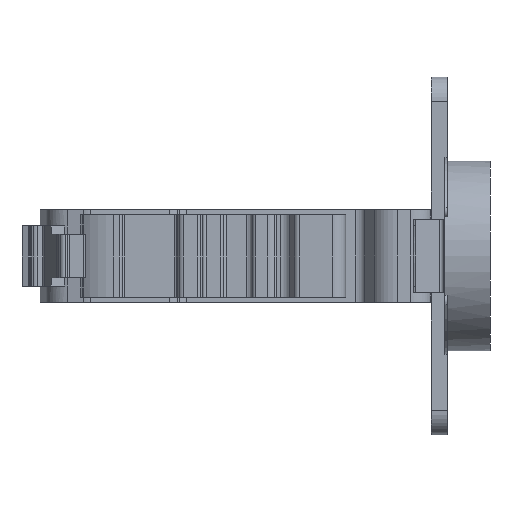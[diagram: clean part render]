
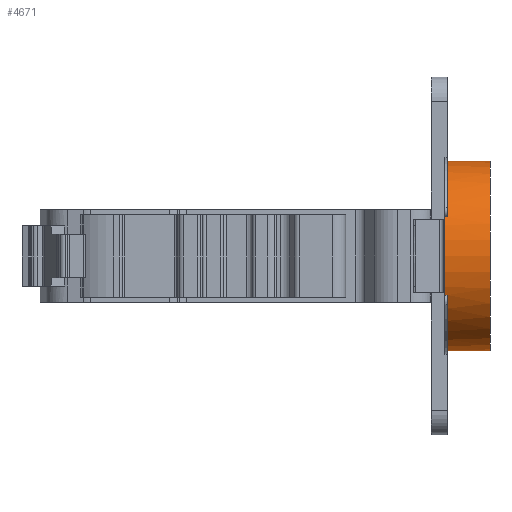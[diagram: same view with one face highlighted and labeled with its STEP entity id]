
A CAD part, front view. The second image highlights one B-rep face of the part: STEP entity #4671.
In plain terms, the highlighted cylindrical face has radius 17.4 mm (diameter 34.8 mm), a partial arc.
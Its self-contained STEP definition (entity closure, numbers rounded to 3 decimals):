
#30 = CARTESIAN_POINT ( 'NONE',  ( -8.3, -28.213, 8.076 ) ) ;
#38 = AXIS2_PLACEMENT_3D ( 'NONE', #2291, #4075, #4880 ) ;
#49 = CARTESIAN_POINT ( 'NONE',  ( -7.8, -12.799, -17.4 ) ) ;
#154 = DIRECTION ( 'NONE',  ( 0., -1., 0. ) ) ;
#215 = CARTESIAN_POINT ( 'NONE',  ( -8.3, -28.213, -8.076 ) ) ;
#221 = ORIENTED_EDGE ( 'NONE', *, *, #5622, .F. ) ;
#288 = CARTESIAN_POINT ( 'NONE',  ( 0.4, -12.799, 17.4 ) ) ;
#399 = DIRECTION ( 'NONE',  ( 0., 0., 1. ) ) ;
#479 = CARTESIAN_POINT ( 'NONE',  ( -7.8, -12.799, 0. ) ) ;
#497 = EDGE_CURVE ( 'NONE', #4059, #3804, #3142, .T. ) ;
#544 = DIRECTION ( 'NONE',  ( 1., 0., 0. ) ) ;
#545 = LINE ( 'NONE', #5309, #1249 ) ;
#563 = ORIENTED_EDGE ( 'NONE', *, *, #5656, .F. ) ;
#581 = ORIENTED_EDGE ( 'NONE', *, *, #5547, .T. ) ;
#728 = VERTEX_POINT ( 'NONE', #3921 ) ;
#783 = ORIENTED_EDGE ( 'NONE', *, *, #3652, .F. ) ;
#797 = VERTEX_POINT ( 'NONE', #4972 ) ;
#829 = AXIS2_PLACEMENT_3D ( 'NONE', #5465, #3333, #1991 ) ;
#833 = CARTESIAN_POINT ( 'NONE',  ( -8.191, -28.633, 7.215 ) ) ;
#903 = B_SPLINE_CURVE_WITH_KNOTS ( 'NONE', 3,
 ( #833, #4799, #2207, #5281, #30, #3524 ),
 .UNSPECIFIED., .F., .F.,
 ( 4, 2, 4 ),
 ( 0., 0.001, 0.001 ),
 .UNSPECIFIED. ) ;
#912 = CARTESIAN_POINT ( 'NONE',  ( -7.8, -28.661, 7.154 ) ) ;
#916 = EDGE_CURVE ( 'NONE', #2603, #3486, #3298, .T. ) ;
#994 = DIRECTION ( 'NONE',  ( -1., 0., 0. ) ) ;
#998 = LINE ( 'NONE', #2771, #2442 ) ;
#1001 = CARTESIAN_POINT ( 'NONE',  ( 0., -12.799, 17.4 ) ) ;
#1025 = B_SPLINE_CURVE_WITH_KNOTS ( 'NONE', 3,
 ( #2818, #215, #2784, #4576, #2014, #5517 ),
 .UNSPECIFIED., .F., .F.,
 ( 4, 2, 4 ),
 ( 0., 0.001, 0.001 ),
 .UNSPECIFIED. ) ;
#1109 = DIRECTION ( 'NONE',  ( 0., 1., 0. ) ) ;
#1186 = CARTESIAN_POINT ( 'NONE',  ( 0.4, -12.799, 0. ) ) ;
#1200 = VERTEX_POINT ( 'NONE', #2666 ) ;
#1225 = VERTEX_POINT ( 'NONE', #49 ) ;
#1249 = VECTOR ( 'NONE', #2290, 1000. ) ;
#1250 = VECTOR ( 'NONE', #3789, 1000. ) ;
#1269 = CARTESIAN_POINT ( 'NONE',  ( -8.191, -28.661, -7.154 ) ) ;
#1323 = CIRCLE ( 'NONE', #1777, 17.4 ) ;
#1414 = AXIS2_PLACEMENT_3D ( 'NONE', #1186, #3362, #2930 ) ;
#1452 = ORIENTED_EDGE ( 'NONE', *, *, #4853, .F. ) ;
#1522 = CARTESIAN_POINT ( 'NONE',  ( -8.191, -28.633, 7.215 ) ) ;
#1605 = LINE ( 'NONE', #288, #1250 ) ;
#1612 = CYLINDRICAL_SURFACE ( 'NONE', #1414, 17.4 ) ;
#1683 = ORIENTED_EDGE ( 'NONE', *, *, #916, .T. ) ;
#1777 = AXIS2_PLACEMENT_3D ( 'NONE', #479, #4846, #399 ) ;
#1991 = DIRECTION ( 'NONE',  ( 0., 1., 0. ) ) ;
#2014 = CARTESIAN_POINT ( 'NONE',  ( -8.191, -28.553, -7.39 ) ) ;
#2039 = FACE_OUTER_BOUND ( 'NONE', #4696, .T. ) ;
#2207 = CARTESIAN_POINT ( 'NONE',  ( -8.219, -28.471, 7.564 ) ) ;
#2290 = DIRECTION ( 'NONE',  ( 1., 0., 0. ) ) ;
#2291 = CARTESIAN_POINT ( 'NONE',  ( -7.8, -12.799, 0. ) ) ;
#2336 = EDGE_CURVE ( 'NONE', #1225, #728, #1323, .T. ) ;
#2343 = DIRECTION ( 'NONE',  ( -1., 0., 0. ) ) ;
#2432 = ORIENTED_EDGE ( 'NONE', *, *, #497, .T. ) ;
#2442 = VECTOR ( 'NONE', #2343, 1000. ) ;
#2468 = ORIENTED_EDGE ( 'NONE', *, *, #3015, .T. ) ;
#2504 = DIRECTION ( 'NONE',  ( -1., 0., 0. ) ) ;
#2506 = CIRCLE ( 'NONE', #38, 17.4 ) ;
#2603 = VERTEX_POINT ( 'NONE', #5468 ) ;
#2610 = ORIENTED_EDGE ( 'NONE', *, *, #2336, .F. ) ;
#2666 = CARTESIAN_POINT ( 'NONE',  ( -7.8, -12.799, 17.4 ) ) ;
#2771 = CARTESIAN_POINT ( 'NONE',  ( -8.06, -28.661, -7.154 ) ) ;
#2784 = CARTESIAN_POINT ( 'NONE',  ( -8.274, -28.301, -7.906 ) ) ;
#2818 = CARTESIAN_POINT ( 'NONE',  ( -8.3, -28.121, -8.246 ) ) ;
#2930 = DIRECTION ( 'NONE',  ( 0., 0., 1. ) ) ;
#3007 = CIRCLE ( 'NONE', #5203, 17.4 ) ;
#3011 = ORIENTED_EDGE ( 'NONE', *, *, #4162, .F. ) ;
#3015 = EDGE_CURVE ( 'NONE', #3216, #2603, #1025, .T. ) ;
#3070 = AXIS2_PLACEMENT_3D ( 'NONE', #4351, #4082, #154 ) ;
#3142 = CIRCLE ( 'NONE', #5343, 17.4 ) ;
#3163 = VECTOR ( 'NONE', #994, 1000. ) ;
#3216 = VERTEX_POINT ( 'NONE', #4402 ) ;
#3261 = ORIENTED_EDGE ( 'NONE', *, *, #4518, .F. ) ;
#3298 = CIRCLE ( 'NONE', #829, 17.4 ) ;
#3333 = DIRECTION ( 'NONE',  ( -1., 0., 0. ) ) ;
#3362 = DIRECTION ( 'NONE',  ( -1., 0., 0. ) ) ;
#3486 = VERTEX_POINT ( 'NONE', #1269 ) ;
#3524 = CARTESIAN_POINT ( 'NONE',  ( -8.3, -28.121, 8.246 ) ) ;
#3608 = DIRECTION ( 'NONE',  ( 0., 1., 0. ) ) ;
#3652 = EDGE_CURVE ( 'NONE', #4059, #5486, #545, .T. ) ;
#3789 = DIRECTION ( 'NONE',  ( -1., 0., 0. ) ) ;
#3804 = VERTEX_POINT ( 'NONE', #1522 ) ;
#3906 = EDGE_CURVE ( 'NONE', #4797, #1200, #1605, .T. ) ;
#3921 = CARTESIAN_POINT ( 'NONE',  ( -7.8, -28.661, -7.154 ) ) ;
#4059 = VERTEX_POINT ( 'NONE', #4359 ) ;
#4075 = DIRECTION ( 'NONE',  ( -1., 0., 0. ) ) ;
#4082 = DIRECTION ( 'NONE',  ( -1., 0., 0. ) ) ;
#4097 = LINE ( 'NONE', #4522, #3163 ) ;
#4162 = EDGE_CURVE ( 'NONE', #5216, #1225, #4097, .T. ) ;
#4351 = CARTESIAN_POINT ( 'NONE',  ( -8.3, -12.799, 0. ) ) ;
#4359 = CARTESIAN_POINT ( 'NONE',  ( -8.191, -28.661, 7.154 ) ) ;
#4402 = CARTESIAN_POINT ( 'NONE',  ( -8.3, -28.121, -8.246 ) ) ;
#4518 = EDGE_CURVE ( 'NONE', #3216, #797, #4901, .T. ) ;
#4522 = CARTESIAN_POINT ( 'NONE',  ( 0.4, -12.799, -17.4 ) ) ;
#4576 = CARTESIAN_POINT ( 'NONE',  ( -8.218, -28.471, -7.563 ) ) ;
#4671 = ADVANCED_FACE ( 'NONE', ( #2039 ), #1612, .T. ) ;
#4696 = EDGE_LOOP ( 'NONE', ( #3011, #563, #4889, #1452, #783, #2432, #581, #3261, #2468, #1683, #221, #2610 ) ) ;
#4797 = VERTEX_POINT ( 'NONE', #1001 ) ;
#4799 = CARTESIAN_POINT ( 'NONE',  ( -8.191, -28.553, 7.391 ) ) ;
#4846 = DIRECTION ( 'NONE',  ( -1., 0., 0. ) ) ;
#4853 = EDGE_CURVE ( 'NONE', #5486, #1200, #2506, .T. ) ;
#4880 = DIRECTION ( 'NONE',  ( 0., 0., 1. ) ) ;
#4889 = ORIENTED_EDGE ( 'NONE', *, *, #3906, .T. ) ;
#4901 = CIRCLE ( 'NONE', #3070, 17.4 ) ;
#4972 = CARTESIAN_POINT ( 'NONE',  ( -8.3, -28.121, 8.246 ) ) ;
#4988 = CARTESIAN_POINT ( 'NONE',  ( 0., -12.799, 0. ) ) ;
#5130 = CARTESIAN_POINT ( 'NONE',  ( -8.191, -12.799, 0. ) ) ;
#5203 = AXIS2_PLACEMENT_3D ( 'NONE', #4988, #544, #3608 ) ;
#5216 = VERTEX_POINT ( 'NONE', #5261 ) ;
#5261 = CARTESIAN_POINT ( 'NONE',  ( 0., -12.799, -17.4 ) ) ;
#5281 = CARTESIAN_POINT ( 'NONE',  ( -8.275, -28.301, 7.906 ) ) ;
#5309 = CARTESIAN_POINT ( 'NONE',  ( -8.06, -28.661, 7.154 ) ) ;
#5343 = AXIS2_PLACEMENT_3D ( 'NONE', #5130, #2504, #1109 ) ;
#5465 = CARTESIAN_POINT ( 'NONE',  ( -8.191, -12.799, 0. ) ) ;
#5468 = CARTESIAN_POINT ( 'NONE',  ( -8.191, -28.633, -7.215 ) ) ;
#5486 = VERTEX_POINT ( 'NONE', #912 ) ;
#5517 = CARTESIAN_POINT ( 'NONE',  ( -8.191, -28.633, -7.215 ) ) ;
#5547 = EDGE_CURVE ( 'NONE', #3804, #797, #903, .T. ) ;
#5622 = EDGE_CURVE ( 'NONE', #728, #3486, #998, .T. ) ;
#5656 = EDGE_CURVE ( 'NONE', #4797, #5216, #3007, .T. ) ;
